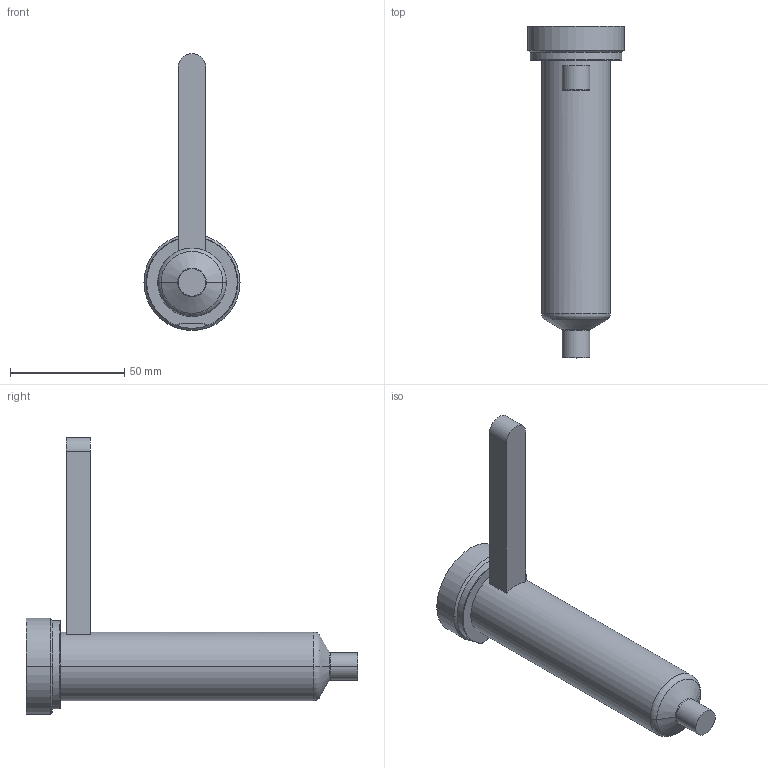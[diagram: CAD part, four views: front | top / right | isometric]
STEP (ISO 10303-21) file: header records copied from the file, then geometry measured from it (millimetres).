
FILE_DESCRIPTION((''),'2;1');
FILE_NAME('EO08_VG-ST_ESG_120_COT','2024-02-19T12:44:41',('sundharh'),(''),'CREO PARAMETRIC BY PTC INC, 2023154','CREO PARAMETRIC BY PTC INC, 2023154','');
FILE_SCHEMA(('CONFIG_CONTROL_DESIGN'));
Length unit declared in the file: millimetre
Products named in the file (1): EO08_VG-ST_ESG_120_COT
Bounding box: 42 x 145 x 121 mm (x, y, z)
Volume: 113587.3 mm3; surface area: 19537.2 mm2
Topology: 1 solids, 1 shells, 31 faces, 67 edges, 40 vertices
Faces by surface type: cylinder 11, plane 9, torus 7, cone 4
Entity records: 951 total; most frequent: CARTESIAN_POINT 218, DIRECTION 159, ORIENTED_EDGE 134, AXIS2_PLACEMENT_3D 67, EDGE_CURVE 67, VERTEX_POINT 40, CIRCLE 36, EDGE_LOOP 33
